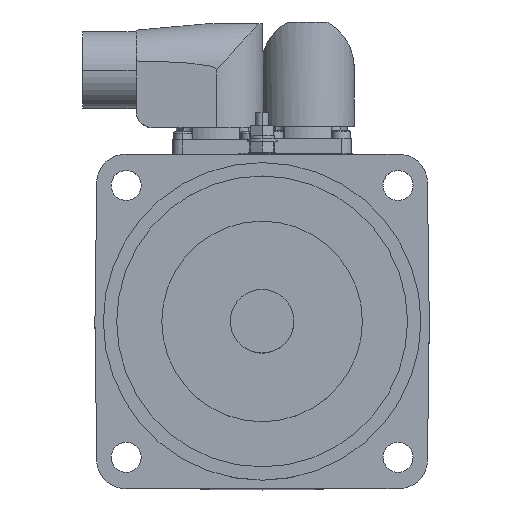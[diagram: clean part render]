
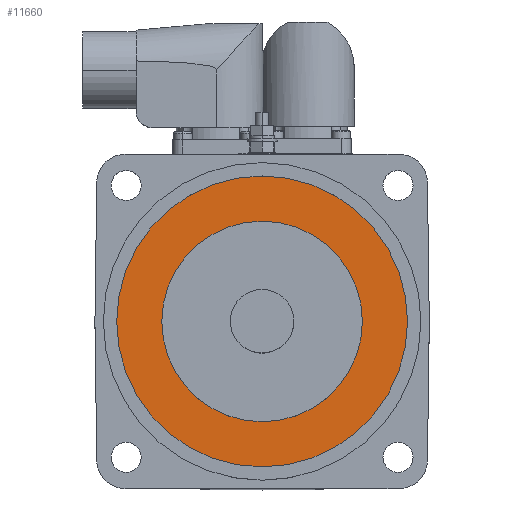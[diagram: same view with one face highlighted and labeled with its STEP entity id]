
A CAD part, top view. The second image highlights one B-rep face of the part: STEP entity #11660.
In plain terms, the highlighted planar face has unit normal (0, 0, 1).
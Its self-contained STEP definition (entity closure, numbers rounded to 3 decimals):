
#418 = VERTEX_POINT ( 'NONE', #14812 ) ;
#419 = VERTEX_POINT ( 'NONE', #14813 ) ;
#422 = VERTEX_POINT ( 'NONE', #14816 ) ;
#423 = VERTEX_POINT ( 'NONE', #14817 ) ;
#763 = CIRCLE ( 'NONE', #13189, 43.5 ) ;
#768 = CIRCLE ( 'NONE', #13190, 30. ) ;
#1700 = CIRCLE ( 'NONE', #13470, 30. ) ;
#1710 = CIRCLE ( 'NONE', #13474, 43.5 ) ;
#3434 = CARTESIAN_POINT ( 'NONE',  ( 0., 0., 8. ) ) ;
#3442 = DIRECTION ( 'NONE',  ( 0., 0., 1. ) ) ;
#3443 = DIRECTION ( 'NONE',  ( 1., 0., 0. ) ) ;
#3451 = CARTESIAN_POINT ( 'NONE',  ( 0., 0., 8. ) ) ;
#3458 = DIRECTION ( 'NONE',  ( 0., 0., 1. ) ) ;
#3459 = DIRECTION ( 'NONE',  ( 1., 0., 0. ) ) ;
#5221 = FACE_BOUND ( 'NONE', #8886, .T. ) ;
#5239 = FACE_OUTER_BOUND ( 'NONE', #15706, .T. ) ;
#7359 = CARTESIAN_POINT ( 'NONE',  ( 0., 43.5, 8. ) ) ;
#7367 = PLANE ( 'NONE',  #14002 ) ;
#7368 = DIRECTION ( 'NONE',  ( 0., 0., 1. ) ) ;
#7369 = DIRECTION ( 'NONE',  ( 1., 0., 0. ) ) ;
#8619 = EDGE_CURVE ( 'NONE', #418, #419, #763, .T. ) ;
#8623 = EDGE_CURVE ( 'NONE', #422, #423, #768, .T. ) ;
#8886 = EDGE_LOOP ( 'NONE', ( #11971, #11972 ) ) ;
#9283 = EDGE_CURVE ( 'NONE', #423, #422, #1700, .T. ) ;
#9289 = EDGE_CURVE ( 'NONE', #419, #418, #1710, .T. ) ;
#11660 = ADVANCED_FACE ( 'NONE', ( #5239, #5221 ), #7367, .T. ) ;
#11969 = ORIENTED_EDGE ( 'NONE', *, *, #9289, .T. ) ;
#11970 = ORIENTED_EDGE ( 'NONE', *, *, #8619, .T. ) ;
#11971 = ORIENTED_EDGE ( 'NONE', *, *, #8623, .F. ) ;
#11972 = ORIENTED_EDGE ( 'NONE', *, *, #9283, .F. ) ;
#13189 = AXIS2_PLACEMENT_3D ( 'NONE', #15208, #15214, #15215 ) ;
#13190 = AXIS2_PLACEMENT_3D ( 'NONE', #15223, #15224, #15225 ) ;
#13470 = AXIS2_PLACEMENT_3D ( 'NONE', #3434, #3442, #3443 ) ;
#13474 = AXIS2_PLACEMENT_3D ( 'NONE', #3451, #3458, #3459 ) ;
#14002 = AXIS2_PLACEMENT_3D ( 'NONE', #7359, #7368, #7369 ) ;
#14812 = CARTESIAN_POINT ( 'NONE',  ( -43.5, 0., 8. ) ) ;
#14813 = CARTESIAN_POINT ( 'NONE',  ( 43.5, 0., 8. ) ) ;
#14816 = CARTESIAN_POINT ( 'NONE',  ( 30., 0., 8. ) ) ;
#14817 = CARTESIAN_POINT ( 'NONE',  ( -30., 0., 8. ) ) ;
#15208 = CARTESIAN_POINT ( 'NONE',  ( 0., 0., 8. ) ) ;
#15214 = DIRECTION ( 'NONE',  ( 0., 0., 1. ) ) ;
#15215 = DIRECTION ( 'NONE',  ( 1., 0., 0. ) ) ;
#15223 = CARTESIAN_POINT ( 'NONE',  ( 0., 0., 8. ) ) ;
#15224 = DIRECTION ( 'NONE',  ( 0., 0., 1. ) ) ;
#15225 = DIRECTION ( 'NONE',  ( 1., 0., 0. ) ) ;
#15706 = EDGE_LOOP ( 'NONE', ( #11969, #11970 ) ) ;
